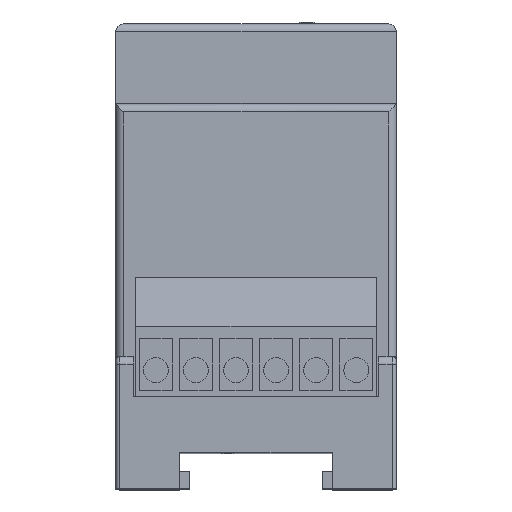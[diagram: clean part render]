
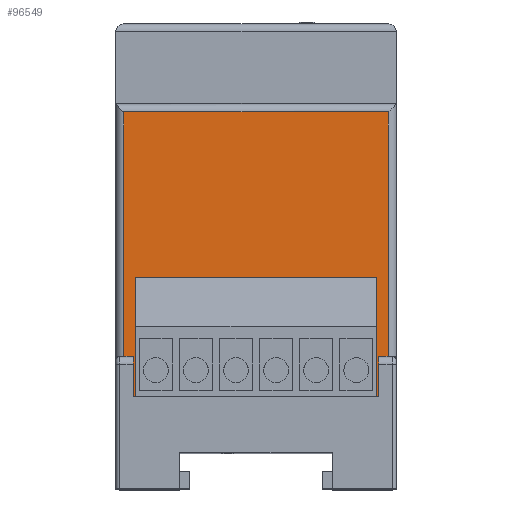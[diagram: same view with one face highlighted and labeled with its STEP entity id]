
A CAD part, top view. The second image highlights one B-rep face of the part: STEP entity #96549.
In plain terms, the highlighted planar face has unit normal (0, 0, 1).
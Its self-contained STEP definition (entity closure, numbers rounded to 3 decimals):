
#253 = DIRECTION ( 'NONE',  ( 0., 0., -1. ) ) ;
#271 = VERTEX_POINT ( 'NONE', #74573 ) ;
#315 = VERTEX_POINT ( 'NONE', #32481 ) ;
#676 = CARTESIAN_POINT ( 'NONE',  ( 32., -5., 0. ) ) ;
#2329 = LINE ( 'NONE', #102356, #65064 ) ;
#2487 = CARTESIAN_POINT ( 'NONE',  ( 1., -9., 0. ) ) ;
#3661 = VERTEX_POINT ( 'NONE', #68121 ) ;
#4008 = LINE ( 'NONE', #102939, #49347 ) ;
#6188 = EDGE_CURVE ( 'NONE', #98305, #27807, #66562, .T. ) ;
#6787 = DIRECTION ( 'NONE',  ( 0., -1., 0. ) ) ;
#8003 = DIRECTION ( 'NONE',  ( -1., 0., 0. ) ) ;
#8486 = FACE_OUTER_BOUND ( 'NONE', #48312, .T. ) ;
#9992 = DIRECTION ( 'NONE',  ( -1., 0., 0. ) ) ;
#10862 = CARTESIAN_POINT ( 'NONE',  ( 33.5, -5., 0. ) ) ;
#12799 = VECTOR ( 'NONE', #89767, 1000. ) ;
#12961 = LINE ( 'NONE', #52844, #78364 ) ;
#16658 = ORIENTED_EDGE ( 'NONE', *, *, #99378, .T. ) ;
#17291 = CARTESIAN_POINT ( 'NONE',  ( 1.5, -9., 0. ) ) ;
#18828 = ORIENTED_EDGE ( 'NONE', *, *, #108641, .T. ) ;
#20479 = VERTEX_POINT ( 'NONE', #68439 ) ;
#20936 = ORIENTED_EDGE ( 'NONE', *, *, #67153, .T. ) ;
#23533 = CARTESIAN_POINT ( 'NONE',  ( 1., 31.5, 0. ) ) ;
#23764 = LINE ( 'NONE', #10862, #109203 ) ;
#24114 = DIRECTION ( 'NONE',  ( 0.707, 0.707, 0. ) ) ;
#25971 = LINE ( 'NONE', #37826, #68643 ) ;
#27807 = VERTEX_POINT ( 'NONE', #72295 ) ;
#29819 = VERTEX_POINT ( 'NONE', #676 ) ;
#29865 = EDGE_CURVE ( 'NONE', #29819, #20479, #12961, .T. ) ;
#30536 = LINE ( 'NONE', #23533, #95887 ) ;
#32481 = CARTESIAN_POINT ( 'NONE',  ( 33.5, -6.5, 0. ) ) ;
#34182 = PLANE ( 'NONE',  #58113 ) ;
#36248 = VERTEX_POINT ( 'NONE', #71474 ) ;
#37498 = ORIENTED_EDGE ( 'NONE', *, *, #77929, .T. ) ;
#37826 = CARTESIAN_POINT ( 'NONE',  ( 34., 31.5, 0. ) ) ;
#38080 = EDGE_CURVE ( 'NONE', #3661, #99975, #25971, .T. ) ;
#38680 = CARTESIAN_POINT ( 'NONE',  ( 1.5, -5., 0. ) ) ;
#41695 = EDGE_CURVE ( 'NONE', #29819, #315, #2329, .T. ) ;
#42272 = VECTOR ( 'NONE', #8003, 1000. ) ;
#42878 = DIRECTION ( 'NONE',  ( 1., 0., 0. ) ) ;
#43874 = ORIENTED_EDGE ( 'NONE', *, *, #104133, .T. ) ;
#48312 = EDGE_LOOP ( 'NONE', ( #37498, #51786, #51637, #18828, #83129, #65477, #16658, #43874, #72789, #20936 ) ) ;
#49347 = VECTOR ( 'NONE', #42878, 1000. ) ;
#50902 = EDGE_CURVE ( 'NONE', #107622, #27807, #78198, .T. ) ;
#51299 = CARTESIAN_POINT ( 'NONE',  ( 0., 31.5, 0. ) ) ;
#51637 = ORIENTED_EDGE ( 'NONE', *, *, #50902, .F. ) ;
#51786 = ORIENTED_EDGE ( 'NONE', *, *, #6188, .T. ) ;
#52844 = CARTESIAN_POINT ( 'NONE',  ( 1.5, -5., 0. ) ) ;
#58113 = AXIS2_PLACEMENT_3D ( 'NONE', #51299, #253, #59898 ) ;
#59898 = DIRECTION ( 'NONE',  ( -1., 0., 0. ) ) ;
#61663 = VECTOR ( 'NONE', #24114, 1000. ) ;
#64355 = LINE ( 'NONE', #83836, #61663 ) ;
#64961 = LINE ( 'NONE', #101619, #42272 ) ;
#65048 = CARTESIAN_POINT ( 'NONE',  ( 1.5, -6.5, 0. ) ) ;
#65064 = VECTOR ( 'NONE', #76939, 1000. ) ;
#65477 = ORIENTED_EDGE ( 'NONE', *, *, #41695, .T. ) ;
#66562 = LINE ( 'NONE', #17291, #89253 ) ;
#67153 = EDGE_CURVE ( 'NONE', #99975, #36248, #64961, .T. ) ;
#68121 = CARTESIAN_POINT ( 'NONE',  ( 34., -9., 0. ) ) ;
#68378 = DIRECTION ( 'NONE',  ( 1., 0., 0. ) ) ;
#68439 = CARTESIAN_POINT ( 'NONE',  ( 3., -5., 0. ) ) ;
#68643 = VECTOR ( 'NONE', #106104, 1000. ) ;
#71474 = CARTESIAN_POINT ( 'NONE',  ( 1., 30.5, 0. ) ) ;
#72295 = CARTESIAN_POINT ( 'NONE',  ( 1.5, -9., 0. ) ) ;
#72789 = ORIENTED_EDGE ( 'NONE', *, *, #38080, .T. ) ;
#74573 = CARTESIAN_POINT ( 'NONE',  ( 33.5, -9., 0. ) ) ;
#76939 = DIRECTION ( 'NONE',  ( 0.707, -0.707, 0. ) ) ;
#77929 = EDGE_CURVE ( 'NONE', #36248, #98305, #30536, .T. ) ;
#78198 = LINE ( 'NONE', #38680, #12799 ) ;
#78364 = VECTOR ( 'NONE', #9992, 1000. ) ;
#78613 = CARTESIAN_POINT ( 'NONE',  ( 34., 30.5, 0. ) ) ;
#79120 = DIRECTION ( 'NONE',  ( 0., -1., 0. ) ) ;
#83129 = ORIENTED_EDGE ( 'NONE', *, *, #29865, .F. ) ;
#83836 = CARTESIAN_POINT ( 'NONE',  ( 1.5, -6.5, 0. ) ) ;
#89253 = VECTOR ( 'NONE', #68378, 1000. ) ;
#89767 = DIRECTION ( 'NONE',  ( 0., -1., 0. ) ) ;
#95887 = VECTOR ( 'NONE', #6787, 1000. ) ;
#96549 = ADVANCED_FACE ( 'NONE', ( #8486 ), #34182, .F. ) ;
#98305 = VERTEX_POINT ( 'NONE', #2487 ) ;
#99378 = EDGE_CURVE ( 'NONE', #315, #271, #23764, .T. ) ;
#99975 = VERTEX_POINT ( 'NONE', #78613 ) ;
#101619 = CARTESIAN_POINT ( 'NONE',  ( 0., 30.5, 0. ) ) ;
#102356 = CARTESIAN_POINT ( 'NONE',  ( 32., -5., 0. ) ) ;
#102939 = CARTESIAN_POINT ( 'NONE',  ( 35., -9., 0. ) ) ;
#104133 = EDGE_CURVE ( 'NONE', #271, #3661, #4008, .T. ) ;
#106104 = DIRECTION ( 'NONE',  ( 0., 1., 0. ) ) ;
#107622 = VERTEX_POINT ( 'NONE', #65048 ) ;
#108641 = EDGE_CURVE ( 'NONE', #107622, #20479, #64355, .T. ) ;
#109203 = VECTOR ( 'NONE', #79120, 1000. ) ;
